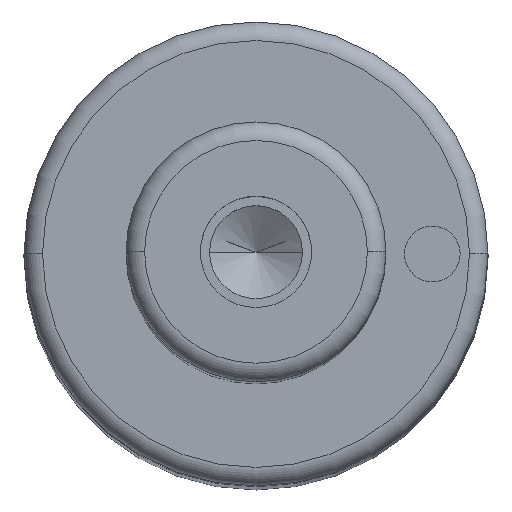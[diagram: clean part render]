
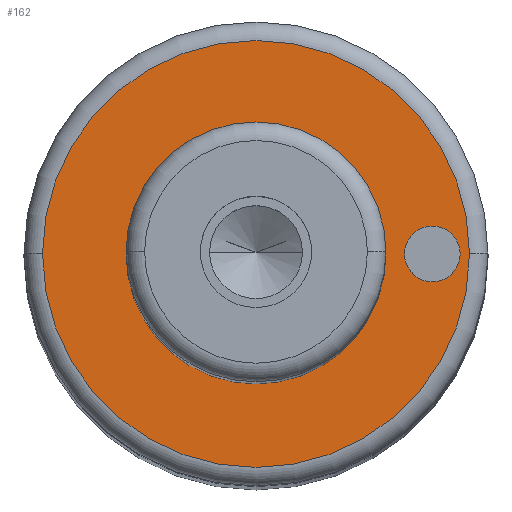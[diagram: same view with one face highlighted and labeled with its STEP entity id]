
A CAD part, top view. The second image highlights one B-rep face of the part: STEP entity #162.
In plain terms, the highlighted planar face has unit normal (0, 0, 1).
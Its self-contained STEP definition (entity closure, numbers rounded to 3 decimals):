
#105=PLANE('',#660);
#113=FACE_BOUND('',#237,.T.);
#114=FACE_BOUND('',#238,.T.);
#115=FACE_BOUND('',#239,.T.);
#162=ADVANCED_FACE('',(#113,#114,#115),#105,.T.);
#237=EDGE_LOOP('',(#393,#394));
#238=EDGE_LOOP('',(#395,#396));
#239=EDGE_LOOP('',(#397,#398));
#269=CIRCLE('',#628,7.);
#270=CIRCLE('',#630,7.);
#274=CIRCLE('',#635,11.5);
#275=CIRCLE('',#637,11.5);
#287=CIRCLE('',#658,1.5);
#288=CIRCLE('',#659,1.5);
#393=ORIENTED_EDGE('',*,*,#512,.F.);
#394=ORIENTED_EDGE('',*,*,#513,.F.);
#395=ORIENTED_EDGE('',*,*,#531,.F.);
#396=ORIENTED_EDGE('',*,*,#532,.F.);
#397=ORIENTED_EDGE('',*,*,#508,.T.);
#398=ORIENTED_EDGE('',*,*,#506,.T.);
#454=VERTEX_POINT('',#925);
#455=VERTEX_POINT('',#927);
#456=VERTEX_POINT('',#933);
#459=VERTEX_POINT('',#938);
#468=VERTEX_POINT('',#977);
#469=VERTEX_POINT('',#978);
#506=EDGE_CURVE('',#455,#454,#269,.T.);
#508=EDGE_CURVE('',#454,#455,#270,.T.);
#512=EDGE_CURVE('',#459,#456,#274,.T.);
#513=EDGE_CURVE('',#456,#459,#275,.T.);
#531=EDGE_CURVE('',#468,#469,#287,.T.);
#532=EDGE_CURVE('',#469,#468,#288,.T.);
#628=AXIS2_PLACEMENT_3D('',#926,#749,#750);
#630=AXIS2_PLACEMENT_3D('',#930,#754,#755);
#635=AXIS2_PLACEMENT_3D('',#939,#764,#765);
#637=AXIS2_PLACEMENT_3D('',#941,#768,#769);
#658=AXIS2_PLACEMENT_3D('',#976,#816,#817);
#659=AXIS2_PLACEMENT_3D('',#979,#818,#819);
#660=AXIS2_PLACEMENT_3D('',#980,#820,#821);
#749=DIRECTION('',(0.,0.,-1.));
#750=DIRECTION('',(0.,1.,0.));
#754=DIRECTION('',(0.,0.,-1.));
#755=DIRECTION('',(0.,-1.,0.));
#764=DIRECTION('',(0.,0.,-1.));
#765=DIRECTION('',(0.,1.,0.));
#768=DIRECTION('',(0.,0.,-1.));
#769=DIRECTION('',(0.,-1.,0.));
#816=DIRECTION('',(0.,0.,1.));
#817=DIRECTION('',(0.,1.,0.));
#818=DIRECTION('',(0.,0.,1.));
#819=DIRECTION('',(0.,-1.,0.));
#820=DIRECTION('',(0.,0.,1.));
#821=DIRECTION('',(0.,-1.,0.));
#925=CARTESIAN_POINT('',(-7.,0.,125.));
#926=CARTESIAN_POINT('',(0.,0.,125.));
#927=CARTESIAN_POINT('',(7.,0.,125.));
#930=CARTESIAN_POINT('',(0.,0.,125.));
#933=CARTESIAN_POINT('',(-11.5,0.,125.));
#938=CARTESIAN_POINT('',(11.5,0.,125.));
#939=CARTESIAN_POINT('',(0.,0.,125.));
#941=CARTESIAN_POINT('',(0.,0.,125.));
#976=CARTESIAN_POINT('',(9.5,0.,125.));
#977=CARTESIAN_POINT('',(8.,0.,125.));
#978=CARTESIAN_POINT('',(11.,0.,125.));
#979=CARTESIAN_POINT('',(9.5,0.,125.));
#980=CARTESIAN_POINT('',(0.,0.,125.));
